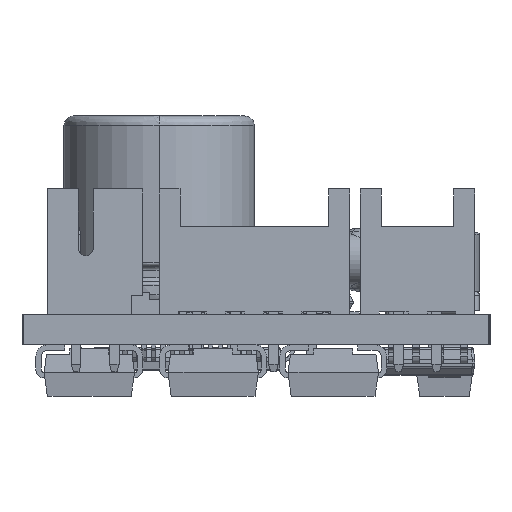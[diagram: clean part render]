
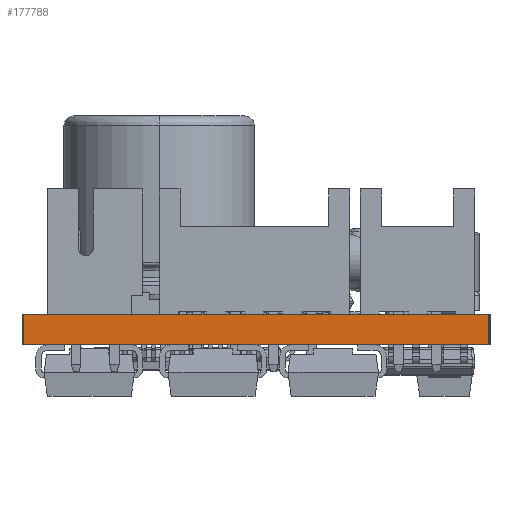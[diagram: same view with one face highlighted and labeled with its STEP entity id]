
A CAD part, left-side view. The second image highlights one B-rep face of the part: STEP entity #177788.
In plain terms, the highlighted planar face has unit normal (-1, 0, 0).
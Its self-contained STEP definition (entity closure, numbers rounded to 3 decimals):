
#771 = CARTESIAN_POINT ( 'NONE',  ( -0.076, 0., 0. ) ) ;
#2908 = ORIENTED_EDGE ( 'NONE', *, *, #39515, .F. ) ;
#2979 = VERTEX_POINT ( 'NONE', #3901 ) ;
#3901 = CARTESIAN_POINT ( 'NONE',  ( -0.076, 24.359, 0. ) ) ;
#4096 = CARTESIAN_POINT ( 'NONE',  ( -0.076, 24.359, 0. ) ) ;
#5966 = VERTEX_POINT ( 'NONE', #167937 ) ;
#14032 = CARTESIAN_POINT ( 'NONE',  ( -0.076, 24.359, 0. ) ) ;
#14142 = ORIENTED_EDGE ( 'NONE', *, *, #120103, .T. ) ;
#18689 = ORIENTED_EDGE ( 'NONE', *, *, #23041, .F. ) ;
#20973 = DIRECTION ( 'NONE',  ( 0., 0., -1. ) ) ;
#23041 = EDGE_CURVE ( 'NONE', #2979, #52385, #157774, .T. ) ;
#23280 = ORIENTED_EDGE ( 'NONE', *, *, #43808, .F. ) ;
#37265 = DIRECTION ( 'NONE',  ( 0., 0., 1. ) ) ;
#37832 = CARTESIAN_POINT ( 'NONE',  ( -0.076, 24.359, 0. ) ) ;
#39515 = EDGE_CURVE ( 'NONE', #159993, #5966, #73939, .T. ) ;
#43808 = EDGE_CURVE ( 'NONE', #5966, #2979, #170983, .T. ) ;
#52385 = VERTEX_POINT ( 'NONE', #214085 ) ;
#73939 = LINE ( 'NONE', #771, #117924 ) ;
#74972 = VECTOR ( 'NONE', #37265, 1000. ) ;
#78718 = AXIS2_PLACEMENT_3D ( 'NONE', #4096, #120343, #20973 ) ;
#91045 = LINE ( 'NONE', #111354, #178934 ) ;
#100360 = DIRECTION ( 'NONE',  ( 0., 0., -1. ) ) ;
#111354 = CARTESIAN_POINT ( 'NONE',  ( -0.076, 0., 1.577 ) ) ;
#113492 = DIRECTION ( 'NONE',  ( 0., 1., 0. ) ) ;
#117924 = VECTOR ( 'NONE', #100360, 1000. ) ;
#120103 = EDGE_CURVE ( 'NONE', #159993, #52385, #91045, .T. ) ;
#120343 = DIRECTION ( 'NONE',  ( 1., 0., 0. ) ) ;
#136287 = PLANE ( 'NONE',  #78718 ) ;
#157774 = LINE ( 'NONE', #37832, #74972 ) ;
#159993 = VERTEX_POINT ( 'NONE', #209624 ) ;
#167937 = CARTESIAN_POINT ( 'NONE',  ( -0.076, 0., 0. ) ) ;
#170983 = LINE ( 'NONE', #14032, #214183 ) ;
#177788 = ADVANCED_FACE ( 'NONE', ( #184169 ), #136287, .F. ) ;
#178934 = VECTOR ( 'NONE', #209759, 1000. ) ;
#184169 = FACE_OUTER_BOUND ( 'NONE', #198445, .T. ) ;
#198445 = EDGE_LOOP ( 'NONE', ( #2908, #14142, #18689, #23280 ) ) ;
#209624 = CARTESIAN_POINT ( 'NONE',  ( -0.076, 0., 1.577 ) ) ;
#209759 = DIRECTION ( 'NONE',  ( 0., 1., 0. ) ) ;
#214085 = CARTESIAN_POINT ( 'NONE',  ( -0.076, 24.359, 1.577 ) ) ;
#214183 = VECTOR ( 'NONE', #113492, 1000. ) ;
